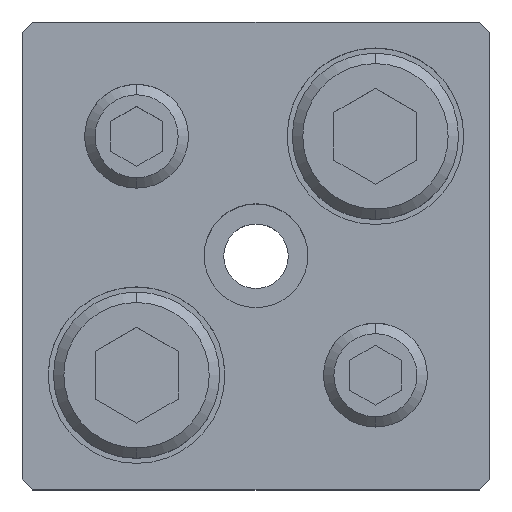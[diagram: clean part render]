
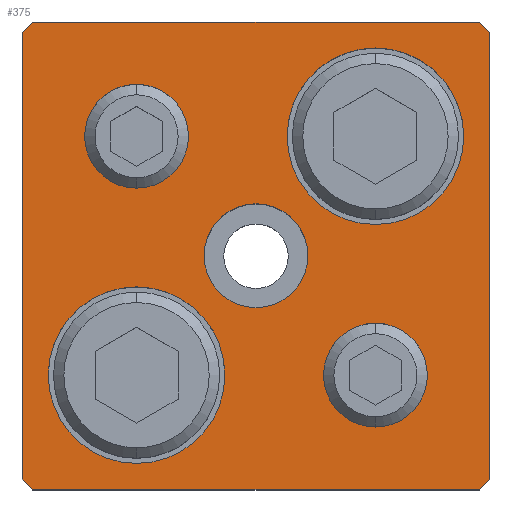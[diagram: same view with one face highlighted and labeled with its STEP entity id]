
A CAD part, top view. The second image highlights one B-rep face of the part: STEP entity #375.
In plain terms, the highlighted planar face has unit normal (0, 0, 1).
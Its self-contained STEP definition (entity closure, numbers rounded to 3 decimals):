
#139=PLANE('',#2873);
#201=FACE_BOUND('',#707,.T.);
#202=FACE_BOUND('',#708,.T.);
#203=FACE_BOUND('',#709,.T.);
#204=FACE_BOUND('',#710,.T.);
#205=FACE_BOUND('',#711,.T.);
#206=FACE_BOUND('',#712,.T.);
#375=ADVANCED_FACE('',(#201,#202,#203,#204,#205,#206),#139,.T.);
#707=EDGE_LOOP('',(#1261,#1262,#1263,#1264,#1265,#1266,#1267,#1268));
#708=EDGE_LOOP('',(#1269,#1270));
#709=EDGE_LOOP('',(#1271,#1272));
#710=EDGE_LOOP('',(#1273,#1274));
#711=EDGE_LOOP('',(#1275,#1276));
#712=EDGE_LOOP('',(#1277,#1278));
#872=CIRCLE('',#2831,5.);
#874=CIRCLE('',#2834,5.);
#876=CIRCLE('',#2837,5.);
#878=CIRCLE('',#2840,5.);
#896=CIRCLE('',#2867,8.5);
#897=CIRCLE('',#2868,8.5);
#898=CIRCLE('',#2869,8.5);
#899=CIRCLE('',#2870,8.5);
#900=CIRCLE('',#2871,5.);
#901=CIRCLE('',#2872,5.);
#1261=ORIENTED_EDGE('',*,*,#2078,.T.);
#1262=ORIENTED_EDGE('',*,*,#2079,.T.);
#1263=ORIENTED_EDGE('',*,*,#2080,.T.);
#1264=ORIENTED_EDGE('',*,*,#2081,.T.);
#1265=ORIENTED_EDGE('',*,*,#2082,.T.);
#1266=ORIENTED_EDGE('',*,*,#2083,.T.);
#1267=ORIENTED_EDGE('',*,*,#2084,.T.);
#1268=ORIENTED_EDGE('',*,*,#2085,.T.);
#1269=ORIENTED_EDGE('',*,*,#2086,.F.);
#1270=ORIENTED_EDGE('',*,*,#2087,.F.);
#1271=ORIENTED_EDGE('',*,*,#2088,.F.);
#1272=ORIENTED_EDGE('',*,*,#2089,.F.);
#1273=ORIENTED_EDGE('',*,*,#2052,.F.);
#1274=ORIENTED_EDGE('',*,*,#2048,.F.);
#1275=ORIENTED_EDGE('',*,*,#2046,.F.);
#1276=ORIENTED_EDGE('',*,*,#2042,.F.);
#1277=ORIENTED_EDGE('',*,*,#2090,.T.);
#1278=ORIENTED_EDGE('',*,*,#2091,.T.);
#1761=VERTEX_POINT('',#4141);
#1762=VERTEX_POINT('',#4142);
#1765=VERTEX_POINT('',#4153);
#1766=VERTEX_POINT('',#4154);
#1785=VERTEX_POINT('',#4213);
#1786=VERTEX_POINT('',#4214);
#1787=VERTEX_POINT('',#4216);
#1788=VERTEX_POINT('',#4218);
#1789=VERTEX_POINT('',#4220);
#1790=VERTEX_POINT('',#4222);
#1791=VERTEX_POINT('',#4224);
#1792=VERTEX_POINT('',#4226);
#1793=VERTEX_POINT('',#4229);
#1794=VERTEX_POINT('',#4230);
#1795=VERTEX_POINT('',#4233);
#1796=VERTEX_POINT('',#4234);
#1797=VERTEX_POINT('',#4237);
#1798=VERTEX_POINT('',#4238);
#2042=EDGE_CURVE('',#1761,#1762,#872,.T.);
#2046=EDGE_CURVE('',#1762,#1761,#874,.T.);
#2048=EDGE_CURVE('',#1765,#1766,#876,.T.);
#2052=EDGE_CURVE('',#1766,#1765,#878,.T.);
#2078=EDGE_CURVE('',#1785,#1786,#2360,.T.);
#2079=EDGE_CURVE('',#1786,#1787,#2361,.T.);
#2080=EDGE_CURVE('',#1787,#1788,#2362,.T.);
#2081=EDGE_CURVE('',#1788,#1789,#2363,.T.);
#2082=EDGE_CURVE('',#1789,#1790,#2364,.T.);
#2083=EDGE_CURVE('',#1790,#1791,#2365,.T.);
#2084=EDGE_CURVE('',#1791,#1792,#2366,.T.);
#2085=EDGE_CURVE('',#1792,#1785,#2367,.T.);
#2086=EDGE_CURVE('',#1793,#1794,#896,.T.);
#2087=EDGE_CURVE('',#1794,#1793,#897,.T.);
#2088=EDGE_CURVE('',#1795,#1796,#898,.T.);
#2089=EDGE_CURVE('',#1796,#1795,#899,.T.);
#2090=EDGE_CURVE('',#1797,#1798,#900,.T.);
#2091=EDGE_CURVE('',#1798,#1797,#901,.T.);
#2360=LINE('',#4212,#2580);
#2361=LINE('',#4215,#2581);
#2362=LINE('',#4217,#2582);
#2363=LINE('',#4219,#2583);
#2364=LINE('',#4221,#2584);
#2365=LINE('',#4223,#2585);
#2366=LINE('',#4225,#2586);
#2367=LINE('',#4227,#2587);
#2580=VECTOR('',#3399,1.);
#2581=VECTOR('',#3400,1.);
#2582=VECTOR('',#3401,1.);
#2583=VECTOR('',#3402,1.);
#2584=VECTOR('',#3403,1.);
#2585=VECTOR('',#3404,1.);
#2586=VECTOR('',#3405,1.);
#2587=VECTOR('',#3406,1.);
#2831=AXIS2_PLACEMENT_3D('',#4140,#3315,#3316);
#2834=AXIS2_PLACEMENT_3D('',#4149,#3323,#3324);
#2837=AXIS2_PLACEMENT_3D('',#4152,#3329,#3330);
#2840=AXIS2_PLACEMENT_3D('',#4161,#3337,#3338);
#2867=AXIS2_PLACEMENT_3D('',#4228,#3407,#3408);
#2868=AXIS2_PLACEMENT_3D('',#4231,#3409,#3410);
#2869=AXIS2_PLACEMENT_3D('',#4232,#3411,#3412);
#2870=AXIS2_PLACEMENT_3D('',#4235,#3413,#3414);
#2871=AXIS2_PLACEMENT_3D('',#4236,#3415,#3416);
#2872=AXIS2_PLACEMENT_3D('',#4239,#3417,#3418);
#2873=AXIS2_PLACEMENT_3D('',#4240,#3419,#3420);
#3315=DIRECTION('',(0.,0.,1.));
#3316=DIRECTION('',(1.,0.,0.));
#3323=DIRECTION('',(0.,0.,1.));
#3324=DIRECTION('',(-1.,0.,0.));
#3329=DIRECTION('',(0.,0.,1.));
#3330=DIRECTION('',(1.,0.,0.));
#3337=DIRECTION('',(0.,0.,1.));
#3338=DIRECTION('',(-1.,0.,0.));
#3399=DIRECTION('',(0.,1.,0.));
#3400=DIRECTION('',(-0.707,0.707,0.));
#3401=DIRECTION('',(-1.,0.,0.));
#3402=DIRECTION('',(-0.707,-0.707,0.));
#3403=DIRECTION('',(0.,-1.,0.));
#3404=DIRECTION('',(0.707,-0.707,0.));
#3405=DIRECTION('',(1.,0.,0.));
#3406=DIRECTION('',(0.707,0.707,0.));
#3407=DIRECTION('',(0.,0.,1.));
#3408=DIRECTION('',(1.,0.,0.));
#3409=DIRECTION('',(0.,0.,1.));
#3410=DIRECTION('',(-1.,0.,0.));
#3411=DIRECTION('',(0.,0.,1.));
#3412=DIRECTION('',(1.,0.,0.));
#3413=DIRECTION('',(0.,0.,1.));
#3414=DIRECTION('',(-1.,0.,0.));
#3415=DIRECTION('',(0.,0.,-1.));
#3416=DIRECTION('',(-1.,0.,0.));
#3417=DIRECTION('',(0.,0.,-1.));
#3418=DIRECTION('',(1.,0.,0.));
#3419=DIRECTION('',(0.,0.,1.));
#3420=DIRECTION('',(0.,-1.,0.));
#4140=CARTESIAN_POINT('',(11.5,-11.5,35.));
#4141=CARTESIAN_POINT('',(11.5,-6.5,35.));
#4142=CARTESIAN_POINT('',(11.5,-16.5,35.));
#4149=CARTESIAN_POINT('',(11.5,-11.5,35.));
#4152=CARTESIAN_POINT('',(-11.5,11.5,35.));
#4153=CARTESIAN_POINT('',(-11.5,16.5,35.));
#4154=CARTESIAN_POINT('',(-11.5,6.5,35.));
#4161=CARTESIAN_POINT('',(-11.5,11.5,35.));
#4212=CARTESIAN_POINT('',(22.5,21.5,35.));
#4213=CARTESIAN_POINT('',(22.5,-21.5,35.));
#4214=CARTESIAN_POINT('',(22.5,21.5,35.));
#4215=CARTESIAN_POINT('',(21.5,22.5,35.));
#4216=CARTESIAN_POINT('',(21.5,22.5,35.));
#4217=CARTESIAN_POINT('',(-21.5,22.5,35.));
#4218=CARTESIAN_POINT('',(-21.5,22.5,35.));
#4219=CARTESIAN_POINT('',(-22.5,21.5,35.));
#4220=CARTESIAN_POINT('',(-22.5,21.5,35.));
#4221=CARTESIAN_POINT('',(-22.5,-21.5,35.));
#4222=CARTESIAN_POINT('',(-22.5,-21.5,35.));
#4223=CARTESIAN_POINT('',(-21.5,-22.5,35.));
#4224=CARTESIAN_POINT('',(-21.5,-22.5,35.));
#4225=CARTESIAN_POINT('',(21.5,-22.5,35.));
#4226=CARTESIAN_POINT('',(21.5,-22.5,35.));
#4227=CARTESIAN_POINT('',(22.5,-21.5,35.));
#4228=CARTESIAN_POINT('',(-11.5,-11.5,35.));
#4229=CARTESIAN_POINT('',(-11.5,-3.,35.));
#4230=CARTESIAN_POINT('',(-11.5,-20.,35.));
#4231=CARTESIAN_POINT('',(-11.5,-11.5,35.));
#4232=CARTESIAN_POINT('',(11.5,11.5,35.));
#4233=CARTESIAN_POINT('',(11.5,20.,35.));
#4234=CARTESIAN_POINT('',(11.5,3.,35.));
#4235=CARTESIAN_POINT('',(11.5,11.5,35.));
#4236=CARTESIAN_POINT('',(0.,0.,35.));
#4237=CARTESIAN_POINT('',(0.,5.,35.));
#4238=CARTESIAN_POINT('',(0.,-5.,35.));
#4239=CARTESIAN_POINT('',(0.,0.,35.));
#4240=CARTESIAN_POINT('',(22.5,-21.5,35.));
